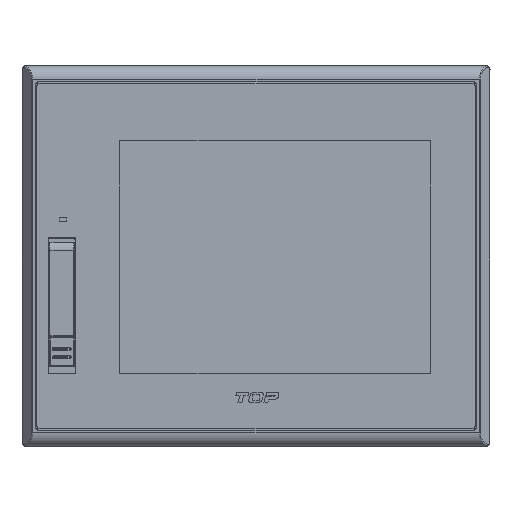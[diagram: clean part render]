
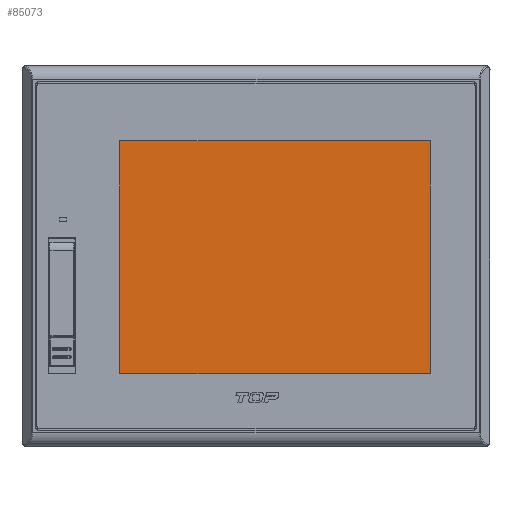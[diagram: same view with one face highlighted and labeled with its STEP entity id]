
A CAD part, top view. The second image highlights one B-rep face of the part: STEP entity #85073.
In plain terms, the highlighted planar face has unit normal (0, 0, 1).
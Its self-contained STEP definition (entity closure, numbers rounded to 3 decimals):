
#26320=DIRECTION('',(0.,-1.,0.));
#26321=VECTOR('',#26320,85.5);
#26322=CARTESIAN_POINT('',(-50.,42.3,-0.27));
#26323=LINE('',#26322,#26321);
#26332=DIRECTION('',(-1.,0.,0.));
#26333=VECTOR('',#26332,114.);
#26334=CARTESIAN_POINT('',(64.,42.3,-0.27));
#26335=LINE('',#26334,#26333);
#26340=DIRECTION('',(0.,1.,0.));
#26341=VECTOR('',#26340,85.5);
#26342=CARTESIAN_POINT('',(64.,-43.2,-0.27));
#26343=LINE('',#26342,#26341);
#26344=DIRECTION('',(1.,0.,0.));
#26345=VECTOR('',#26344,114.);
#26346=CARTESIAN_POINT('',(-50.,-43.2,-0.27));
#26347=LINE('',#26346,#26345);
#49523=CARTESIAN_POINT('',(-50.,42.3,-0.27));
#49524=VERTEX_POINT('',#49523);
#49525=CARTESIAN_POINT('',(-50.,-43.2,-0.27));
#49526=VERTEX_POINT('',#49525);
#49527=CARTESIAN_POINT('',(64.,42.3,-0.27));
#49528=VERTEX_POINT('',#49527);
#49529=CARTESIAN_POINT('',(64.,-43.2,-0.27));
#49530=VERTEX_POINT('',#49529);
#85062=CARTESIAN_POINT('',(7.,-0.45,-0.27));
#85063=DIRECTION('',(0.,0.,1.));
#85064=DIRECTION('',(1.,0.,0.));
#85065=AXIS2_PLACEMENT_3D('',#85062,#85063,#85064);
#85066=PLANE('',#85065);
#85067=ORIENTED_EDGE('',*,*,#85014,.F.);
#85068=ORIENTED_EDGE('',*,*,#85029,.F.);
#85069=ORIENTED_EDGE('',*,*,#85043,.F.);
#85070=ORIENTED_EDGE('',*,*,#85056,.F.);
#85071=EDGE_LOOP('',(#85067,#85068,#85069,#85070));
#85072=FACE_OUTER_BOUND('',#85071,.F.);
#85073=ADVANCED_FACE('',(#85072),#85066,.T.);
#85014=EDGE_CURVE('',#49524,#49526,#26323,.T.);
#85029=EDGE_CURVE('',#49528,#49524,#26335,.T.);
#85043=EDGE_CURVE('',#49530,#49528,#26343,.T.);
#85056=EDGE_CURVE('',#49526,#49530,#26347,.T.);
